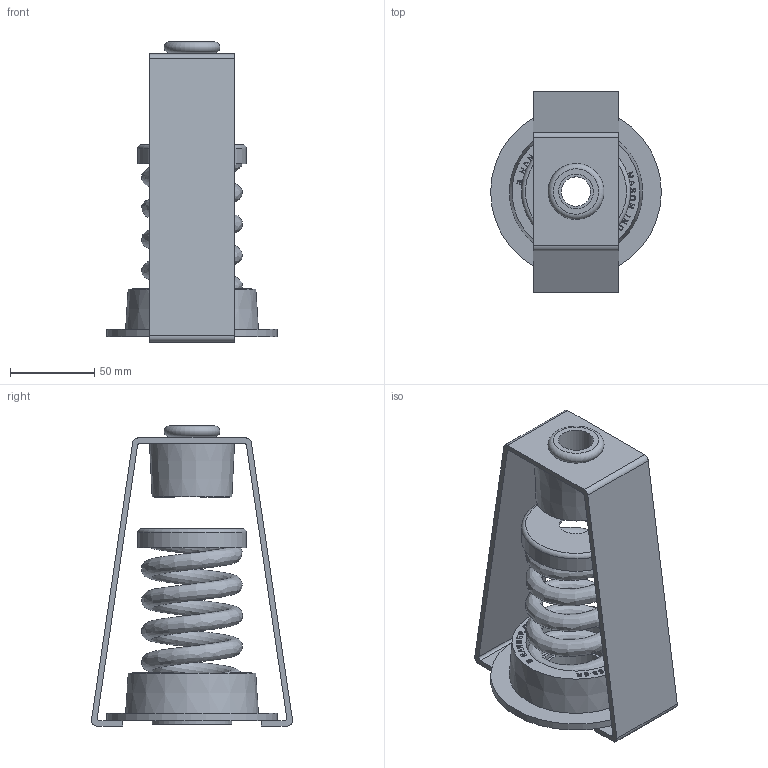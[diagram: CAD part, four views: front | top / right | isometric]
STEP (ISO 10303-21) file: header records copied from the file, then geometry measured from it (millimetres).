
FILE_DESCRIPTION((''),'2;1');
FILE_NAME('C:\2012_Work\Designs\exports\30N\30N-B-1000.stp','2013-06-27T13:07:54',('KShiels'),(''),'Autodesk Inventor 2012','Autodesk Inventor 2012','');
FILE_SCHEMA(('AUTOMOTIVE_DESIGN { 1 0 10303 214 1 1 1 1 }'));
Length unit declared in the file: inch
Products named in the file (12): 30N-B-1000; A-20557-4 30N-B ASSY-01; A-20557-4A; A-20557-4B; A-8588-3R LDS HANGER CUP B; A-8588-3R HANGER CUP B; A-8588-3R WASHER B; A-20495-7N; A-20495-7A; A-20495-7B; A-3268-5 B STEEL CUP; SPRING B-1000 FH (BLUE)
Assembly tree (11 placements, depth 4):
  30N-B-1000
    A-20557-4 30N-B ASSY-01
      A-20557-4A
      A-20557-4B
      A-8588-3R LDS HANGER CUP B
        A-8588-3R HANGER CUP B
        A-8588-3R WASHER B
      A-20495-7N
        A-20495-7A
        A-20495-7B
      A-3268-5 B STEEL CUP
    SPRING B-1000 FH (BLUE)
Bounding box: 101.6 x 119.64 x 178.59 mm (x, y, z)
Volume: 293606.7 mm3; surface area: 147095.9 mm2
Topology: 8 solids, 8 shells, 967 faces, 2519 edges, 1679 vertices
Faces by surface type: plane 635, bspline 299, cylinder 28, torus 3, cone 2
Full cylindrical faces by diameter (mm): 17.463 x1, 19.844 x1, 20.638 x1, 26.988 x3, 38.1 x1, 41.275 x1, 44.45 x4, 47.625 x2, 59.531 x1, 61.119 x1, 64.914 x1, 69.85 x2, 101.6 x1
Entity records: 34358 total; most frequent: CARTESIAN_POINT 12301, ORIENTED_EDGE 4982, DIRECTION 3338, EDGE_CURVE 2491, VECTOR 1826, LINE 1826, VERTEX_POINT 1676, EDGE_LOOP 1117
